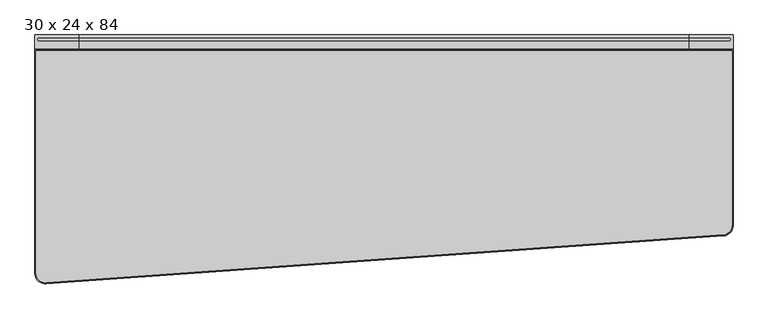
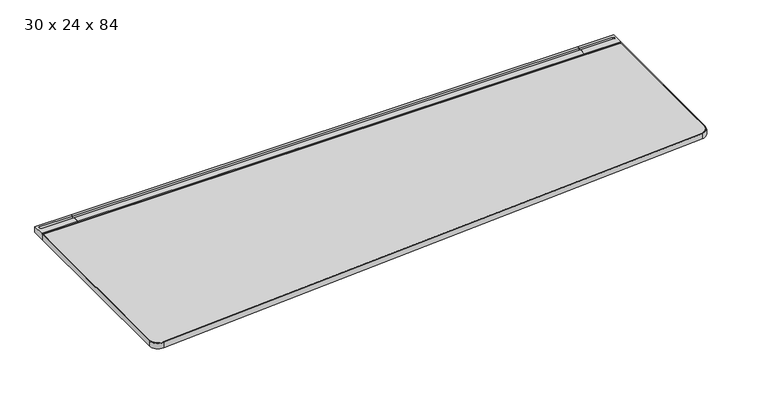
"""IFC4 building model written with IfcOpenShell, lengths in millimetres: furniture geometry, Steelcase - C Scape - Desking - Left Hand Tapered : 30 x 24 x 84."""

from ifc_helpers import new_model, si_unit, point, frame, frame_2d, origin, place, context, project, spatial, polyline, circle_curve, trimmed, segment, composite_curve, outline, extrude, faceted_brep, source, transform, mapped, element, save
from ifc_brep_helpers import plane_surface, cylinder_surface, revolved_surface, advanced_brep


def furniture_30_x_24_x_84_1e226a4b(model_context):
    return source(origin(), model_context, "Body", "SolidModel", [
        advanced_brep(
        [(134.6072876, -45.3135132, 703.3768), (134.6072876, -4.0331902, 703.3768), (134.6072876, -3.2278472, 705.1038636), (134.6072876, 0.0, 705.1038636), (134.6072876, 0.0, 725.932), (134.6072876, -8.5111084, 725.932), (134.6072876, -8.5111084, 713.486), (134.6072876, -19.3290527, 713.486), (134.6072876, -19.3290527, 725.932), (134.6072876, -42.7750923, 725.932), (134.6072876, -42.7750923, 722.4268341), (134.6072876, -45.3135132, 722.4268341), (1.5875, -45.3135132, 703.3768), (1.5875, -45.3135132, 722.4268341), (1.5875, -42.7750923, 722.4268341), (1.5875, -42.7750923, 725.932), (1.5875, 0.0, 725.932), (1.5875, 0.0, 705.1038636), (1.5875, -3.2278472, 705.1038636), (1.5875, -4.0331902, 703.3768), (13.3495728, -19.3290527, 725.932), (13.3495728, -8.5111084, 725.932), (13.3495728, -8.5111084, 713.486), (13.3495728, -19.3290527, 713.486)],
        [
            (0, 1),
            (1, 2),
            (2, 3),
            (3, 4),
            (4, 5),
            (5, 6),
            (6, 7),
            (7, 8),
            (8, 9),
            (9, 10),
            (10, 11),
            (11, 0),
            (12, 13),
            (13, 14),
            (14, 15),
            (15, 16),
            (16, 17),
            (17, 18),
            (18, 19),
            (19, 12),
            (0, 12),
            (19, 1),
            (18, 2),
            (17, 3),
            (16, 4),
            (15, 9),
            (8, 20),
            (20, 21, circle_curve(frame((13.3495728, -13.9200806, 725.932), z_axis=(0.0, 0.0, -1.0), x_axis=(1.0, 0.0, 0.0)), 5.4089722)),
            (21, 5),
            (14, 10),
            (13, 11),
            (6, 22),
            (22, 23, circle_curve(frame((13.3495728, -13.9200806, 713.486), z_axis=(0.0, 0.0, 1.0), x_axis=(1.0, 0.0, 0.0)), 5.4089722)),
            (23, 7),
            (21, 22),
            (20, 23),
        ],
        [
            plane_surface(frame((134.6072876, -45.3135132, 703.3768), z_axis=(1.0, 0.0, 0.0), x_axis=(0.0, 1.0, 0.0))),
            plane_surface(frame((1.5875, -45.3135132, 703.3768), z_axis=(-1.0, 0.0, 0.0), x_axis=(0.0, -1.0, 0.0))),
            plane_surface(frame((134.6072876, -45.3135132, 703.3768), z_axis=(0.0, 0.0, -1.0), x_axis=(-1.0, 0.0, 0.0))),
            plane_surface(frame((134.6072876, -4.0331902, 703.3768), z_axis=(0.0, 0.9063077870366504, -0.4226182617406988), x_axis=(-1.0, 0.0, 0.0))),
            plane_surface(frame((134.6072876, -3.2278472, 705.1038636), z_axis=(0.0, 0.0, -1.0), x_axis=(-1.0, 0.0, 0.0))),
            plane_surface(frame((134.6072876, 0.0, 705.1038636), z_axis=(0.0, 1.0, 0.0), x_axis=(-1.0, 0.0, 0.0))),
            plane_surface(frame((134.6072876, 0.0, 725.932), z_axis=(0.0, 0.0, 1.0), x_axis=(-1.0, 0.0, 0.0))),
            plane_surface(frame((134.6072876, -42.7750923, 725.932), z_axis=(0.0, -1.0, 0.0), x_axis=(-1.0, 0.0, 0.0))),
            plane_surface(frame((134.6072876, -42.7750923, 722.4268341), z_axis=(0.0, 0.0, 1.0), x_axis=(-1.0, 0.0, 0.0))),
            plane_surface(frame((134.6072876, -45.3135132, 722.4268341), z_axis=(0.0, -1.0, 0.0), x_axis=(-1.0, 0.0, 0.0))),
            plane_surface(frame((13.3495728, -8.5111084, 713.486), z_axis=(0.0, 0.0, 1.0), x_axis=(1.0, 0.0, 0.0))),
            plane_surface(frame((134.6072876, -8.5111084, 731.2180541), z_axis=(0.0, -1.0, 0.0), x_axis=(0.0, 0.0, -1.0))),
            revolved_surface(polyline([(18.758545, -13.9200806, 725.932), (18.758545, -13.9200806, 713.486)]), (13.3495728, -13.9200806, 713.486), (0.0, 0.0, 1.0)),
            plane_surface(frame((13.3495728, -19.3290527, 731.2180541), z_axis=(0.0, 1.0, 0.0), x_axis=(0.0, 0.0, -1.0))),
        ],
        [
            (0, [[1, 2, 3, 4, 5, 6, 7, 8, 9, 10, 11, 12]]),
            (1, [[13, 14, 15, 16, 17, 18, 19, 20]]),
            (2, [[-1, 21, -20, 22]]),
            (3, [[-2, -22, -19, 23]]),
            (4, [[-3, -23, -18, 24]]),
            (5, [[-4, -24, -17, 25]]),
            (6, [[-16, 26, -9, 27, 28, 29, -5, -25]]),
            (7, [[-10, -26, -15, 30]]),
            (8, [[-11, -30, -14, 31]]),
            (9, [[-12, -31, -13, -21]]),
            (10, [[32, 33, 34, -7]]),
            (11, [[-32, -6, -29, 35]]),
            (12, [[-33, -35, -28, 36]]),
            (13, [[-34, -36, -27, -8]]),
        ],
    ),
        faceted_brep([(20.6382632, -565.0752923, 700.7093833), (34.9133728, -565.0752923, 693.4200291), (116.3525879, -565.0752923, 693.4200291), (118.9731301, -565.0752923, 679.3263935), (134.6072876, -565.0752923, 679.3263935), (134.6072876, -565.0752923, 703.3768), (20.6382632, -565.0752923, 703.3768), (20.6382632, -4.0331902, 700.7093833), (20.6382632, -4.0331902, 703.3768), (134.6072876, -4.0331902, 703.3768), (134.6072876, -4.0331902, 629.3866), (128.2588347, -4.0331902, 629.3866), (116.3525879, -4.0331902, 693.4200291), (34.9133728, -4.0331902, 693.4200291), (128.2588347, -364.1172546, 629.3866), (121.1384051, -376.5599397, 667.6812472), (134.6072876, -364.1172546, 629.3866), (134.6072876, -376.5599397, 667.6812472)], [[[0, 1, 2, 3, 4, 5, 6]], [[7, 8, 9, 10, 11, 12, 13]], [[1, 0, 7, 13]], [[2, 1, 13, 12]], [[12, 11, 14, 15, 3, 2]], [[11, 10, 16, 14]], [[10, 9, 5, 4, 17, 16]], [[6, 5, 9, 8]], [[0, 6, 8, 7]], [[15, 17, 4, 3]], [[17, 15, 14, 16]]]),
        extrude(outline(composite_curve([segment(polyline([(-293.5216187, 657.3775839), (-559.0022133, 680.1371551)]), True, "CONTINUOUS"), segment(trimmed(circle_curve(frame_2d((-558.7581271, 682.9843154)), 2.8576039), [point((-559.0022133, 680.1371551))], [point((-561.5383043, 682.3236226))], False, "CARTESIAN"), True, "CONTINUOUS"), segment(polyline([(-561.5383043, 682.3236226), (-566.0887542, 701.4717905), (-557.8334441, 701.4717905), (-557.8334441, 703.3768), (-442.6683806, 703.3768), (-442.6683806, 696.3917953), (-318.2108611, 696.3917953), (-318.2108611, 703.3768), (-293.5216187, 703.3768), (-293.5216187, 657.3775839)]), True, "CONTINUOUS")], self_intersect=False)), frame((1030.224, 0.0, 0.0), z_axis=(1.0, 0.0, 0.0), x_axis=(0.0, 1.0, 0.0)), (0.0, 0.0, 1.0), 73.152),
        advanced_brep(
        [(1998.9927124, -45.3135132, 703.3768), (1998.9927124, -45.3135132, 722.4268341), (1998.9927124, -42.7750923, 722.4268341), (1998.9927124, -42.7750923, 725.932), (1998.9927124, -19.3290527, 725.932), (1998.9927124, -19.3290527, 713.486), (1998.9927124, -8.5111084, 713.486), (1998.9927124, -8.5111084, 725.932), (1998.9927124, 0.0, 725.932), (1998.9927124, 0.0, 705.1038636), (1998.9927124, -3.2278472, 705.1038636), (1998.9927124, -4.0331902, 703.3768), (2132.0125, -45.3135132, 703.3768), (2132.0125, -4.0331902, 703.3768), (2132.0125, -3.2278472, 705.1038636), (2132.0125, 0.0, 705.1038636), (2132.0125, 0.0, 725.932), (2132.0125, -42.7750923, 725.932), (2132.0125, -42.7750923, 722.4268341), (2132.0125, -45.3135132, 722.4268341), (2120.2504272, -8.5111084, 725.932), (2120.2504272, -19.3290527, 725.932), (2120.2504272, -19.3290527, 713.486), (2120.2504272, -8.5111084, 713.486)],
        [
            (0, 1),
            (1, 2),
            (2, 3),
            (3, 4),
            (4, 5),
            (5, 6),
            (6, 7),
            (7, 8),
            (8, 9),
            (9, 10),
            (10, 11),
            (11, 0),
            (12, 13),
            (13, 14),
            (14, 15),
            (15, 16),
            (16, 17),
            (17, 18),
            (18, 19),
            (19, 12),
            (11, 13),
            (12, 0),
            (10, 14),
            (9, 15),
            (8, 16),
            (7, 20),
            (20, 21, circle_curve(frame((2120.2504272, -13.9200806, 725.932), z_axis=(0.0, 0.0, -1.0), x_axis=(-1.0, 0.0, 0.0)), 5.4089722)),
            (21, 4),
            (3, 17),
            (2, 18),
            (1, 19),
            (5, 22),
            (22, 23, circle_curve(frame((2120.2504272, -13.9200806, 713.486), z_axis=(0.0, 0.0, 1.0), x_axis=(-1.0, 0.0, 0.0)), 5.4089722)),
            (23, 6),
            (23, 20),
            (22, 21),
        ],
        [
            plane_surface(frame((1998.9927124, -45.3135132, 703.3768), z_axis=(-1.0, 0.0, 0.0), x_axis=(0.0, 1.0, 0.0))),
            plane_surface(frame((2132.0125, -45.3135132, 703.3768), z_axis=(1.0, 0.0, 0.0), x_axis=(0.0, -1.0, 0.0))),
            plane_surface(frame((1998.9927124, -45.3135132, 703.3768), z_axis=(0.0, 0.0, -1.0), x_axis=(1.0, 0.0, 0.0))),
            plane_surface(frame((1998.9927124, -4.0331902, 703.3768), z_axis=(0.0, 0.9063077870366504, -0.4226182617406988), x_axis=(1.0, 0.0, 0.0))),
            plane_surface(frame((1998.9927124, -3.2278472, 705.1038636), z_axis=(0.0, 0.0, -1.0), x_axis=(1.0, 0.0, 0.0))),
            plane_surface(frame((1998.9927124, 0.0, 705.1038636), z_axis=(0.0, 1.0, 0.0), x_axis=(1.0, 0.0, 0.0))),
            plane_surface(frame((1998.9927124, 0.0, 725.932), z_axis=(0.0, 0.0, 1.0), x_axis=(1.0, 0.0, 0.0))),
            plane_surface(frame((1998.9927124, -42.7750923, 725.932), z_axis=(0.0, -1.0, 0.0), x_axis=(1.0, 0.0, 0.0))),
            plane_surface(frame((1998.9927124, -42.7750923, 722.4268341), z_axis=(0.0, 0.0, 1.0), x_axis=(1.0, 0.0, 0.0))),
            plane_surface(frame((1998.9927124, -45.3135132, 722.4268341), z_axis=(0.0, -1.0, 0.0), x_axis=(1.0, 0.0, 0.0))),
            plane_surface(frame((2120.2504272, -8.5111084, 713.486), z_axis=(0.0, 0.0, 1.0), x_axis=(-1.0, 0.0, 0.0))),
            plane_surface(frame((1998.9927124, -8.5111084, 731.2180541), z_axis=(0.0, -1.0, 0.0), x_axis=(0.0, 0.0, -1.0))),
            revolved_surface(polyline([(2114.841455, -13.9200806, 725.932), (2114.841455, -13.9200806, 713.486)]), (2120.2504272, -13.9200806, 713.486), (0.0, 0.0, 1.0)),
            plane_surface(frame((2120.2504272, -19.3290527, 731.2180541), z_axis=(0.0, 1.0, 0.0), x_axis=(0.0, 0.0, -1.0))),
        ],
        [
            (0, [[1, 2, 3, 4, 5, 6, 7, 8, 9, 10, 11, 12]]),
            (1, [[13, 14, 15, 16, 17, 18, 19, 20]]),
            (2, [[21, -13, 22, -12]]),
            (3, [[23, -14, -21, -11]]),
            (4, [[24, -15, -23, -10]]),
            (5, [[25, -16, -24, -9]]),
            (6, [[-25, -8, 26, 27, 28, -4, 29, -17]]),
            (7, [[30, -18, -29, -3]]),
            (8, [[31, -19, -30, -2]]),
            (9, [[-22, -20, -31, -1]]),
            (10, [[-6, 32, 33, 34]]),
            (11, [[35, -26, -7, -34]]),
            (12, [[36, -27, -35, -33]]),
            (13, [[-5, -28, -36, -32]]),
        ],
    ),
        faceted_brep([(2112.9617368, -565.0752923, 700.7093833), (2112.9617368, -565.0752923, 703.3768), (1998.9927124, -565.0752923, 703.3768), (1998.9927124, -565.0752923, 679.3263935), (2014.6268699, -565.0752923, 679.3263935), (2017.2474121, -565.0752923, 693.4200291), (2098.6866272, -565.0752923, 693.4200291), (2112.9617368, -4.0331902, 700.7093833), (2098.6866272, -4.0331902, 693.4200291), (2017.2474121, -4.0331902, 693.4200291), (2005.3411653, -4.0331902, 629.3866), (1998.9927124, -4.0331902, 629.3866), (1998.9927124, -4.0331902, 703.3768), (2112.9617368, -4.0331902, 703.3768), (2012.4615949, -376.5599397, 667.6812472), (2005.3411653, -364.1172546, 629.3866), (1998.9927124, -364.1172546, 629.3866), (1998.9927124, -376.5599397, 667.6812472)], [[[0, 1, 2, 3, 4, 5, 6]], [[7, 8, 9, 10, 11, 12, 13]], [[6, 8, 7, 0]], [[5, 9, 8, 6]], [[9, 5, 4, 14, 15, 10]], [[10, 15, 16, 11]], [[11, 16, 17, 3, 2, 12]], [[1, 13, 12, 2]], [[0, 7, 13, 1]], [[14, 4, 3, 17]], [[17, 16, 15, 14]]]),
        extrude(outline(polyline([(-8.5111084, 725.932), (0.0, 725.932), (0.0, 705.1038636), (-3.2278472, 705.1038636), (-4.0331902, 703.3768), (-45.3135132, 703.3768), (-45.3135132, 722.4268341), (-42.7750923, 722.4268341), (-42.7750923, 725.932), (-19.3290527, 725.932), (-19.3290527, 713.486), (-8.5111084, 713.486), (-8.5111084, 725.932)])), frame((134.6072876, 0.0, 0.0), z_axis=(1.0, 0.0, 0.0), x_axis=(0.0, 1.0, 0.0)), (0.0, 0.0, 1.0), 1864.3854248),
        extrude(outline(polyline([(1998.9927124, -4.0331902), (1998.9927124, -293.5216187), (134.6072876, -293.5216187), (134.6072876, -4.0331902), (1998.9927124, -4.0331902)])), frame((0.0, 0.0, 629.3866), z_axis=(0.0, 0.0, 1.0), x_axis=(1.0, 0.0, 0.0)), (0.0, 0.0, 1.0), 73.9902),
        extrude(outline(composite_curve([segment(polyline([(2128.9645, -48.3660689), (2128.9645, -581.0845942)]), True, "CONTINUOUS"), segment(trimmed(circle_curve(frame_2d((2099.659299, -581.0845942)), 29.305201), [point((2128.9645, -581.0845942))], [point((2102.5931119, -610.2425699))], False, "CARTESIAN"), True, "CONTINUOUS"), segment(polyline([(2102.5931119, -610.2425699), (36.8381677, -756.7577516)]), True, "CONTINUOUS"), segment(trimmed(circle_curve(frame_2d((33.9076624, -727.6326485)), 29.2721624), [point((36.8381677, -756.7577516))], [point((4.6355, -727.6326485))], False, "CARTESIAN"), True, "CONTINUOUS"), segment(polyline([(4.6355, -727.6326485), (4.6355, -48.3660689), (2128.9645, -48.3660689)]), True, "CONTINUOUS")], self_intersect=False)), frame((0.0, 0.0, 703.3768), z_axis=(0.0, 0.0, 1.0), x_axis=(1.0, 0.0, 0.0)), (0.0, 0.0, 1.0), 20.5232),
        advanced_brep(
        [(4.6384766, -48.3660689, 703.3768), (4.6384766, -48.3660689, 723.9), (4.6384766, -727.9545671, 723.9), (4.6384766, -727.9545671, 703.3768), (1.5875, -45.3150923, 723.9), (1.5875, -45.3150923, 703.3768), (1.5875, -727.9545671, 703.3768), (1.5875, -727.9545671, 723.9), (36.1990786, -756.5105703, 703.3768), (36.1990786, -756.5105703, 723.9), (36.5032914, -759.5463424, 723.9), (36.5032914, -759.5463424, 703.3768), (2103.2132622, -610.4653551, 723.9), (2103.2132622, -610.4653551, 703.3768), (2103.4282914, -613.5087448, 703.3768), (2103.4282914, -613.5087448, 723.9), (2128.9615234, -581.9169695, 703.3768), (2128.9615234, -581.9169695, 723.9), (2132.0125, -581.9169695, 703.3768), (2132.0125, -45.3150923, 703.3768), (2128.9615234, -48.3660689, 703.3768), (2132.0125, -581.9169695, 723.9), (2132.0125, -45.3150923, 723.9), (2128.9615234, -48.3660689, 723.9)],
        [
            (0, 1),
            (1, 2),
            (2, 3),
            (3, 0),
            (4, 5),
            (5, 6),
            (6, 7),
            (7, 4),
            (8, 3, circle_curve(frame((33.3375, -727.9545671, 703.3768), z_axis=(0.0, 0.0, -1.0), x_axis=(-1.0, 0.0, 0.0)), 28.6990234)),
            (2, 9, circle_curve(frame((33.3375, -727.9545671, 723.9), z_axis=(0.0, 0.0, 1.0), x_axis=(-1.0, 0.0, 0.0)), 28.6990234)),
            (9, 8),
            (10, 7, circle_curve(frame((33.3375, -727.9545671, 723.9), z_axis=(0.0, 0.0, -1.0), x_axis=(-1.0, 0.0, 0.0)), 31.75)),
            (6, 11, circle_curve(frame((33.3375, -727.9545671, 703.3768), z_axis=(0.0, 0.0, 1.0), x_axis=(-1.0, 0.0, 0.0)), 31.75)),
            (11, 10),
            (9, 12),
            (12, 13),
            (13, 8),
            (11, 14),
            (14, 15),
            (15, 10),
            (16, 13, circle_curve(frame((2100.2625, -581.9169695, 703.3768), z_axis=(0.0, 0.0, -1.0), x_axis=(0.09970996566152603, -0.9950165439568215, 0.0)), 28.6990234)),
            (12, 17, circle_curve(frame((2100.2625, -581.9169695, 723.9), z_axis=(0.0, 0.0, 1.0), x_axis=(0.09970996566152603, -0.9950165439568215, 0.0)), 28.6990234)),
            (17, 16),
            (18, 14, circle_curve(frame((2100.2625, -581.9169695, 703.3768), z_axis=(0.0, 0.0, -1.0), x_axis=(0.09970996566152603, -0.9950165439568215, 0.0)), 31.75)),
            (5, 19),
            (19, 18),
            (16, 20),
            (20, 0),
            (21, 15, circle_curve(frame((2100.2625, -581.9169695, 723.9), z_axis=(0.0, 0.0, -1.0), x_axis=(0.09970996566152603, -0.9950165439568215, 0.0)), 31.75)),
            (18, 21),
            (21, 22),
            (22, 4),
            (1, 23),
            (23, 17),
            (23, 20),
            (19, 22),
        ],
        [
            plane_surface(frame((4.6384766, -48.3660689, 723.9), z_axis=(1.0, 0.0, 0.0), x_axis=(0.0, -1.0, 0.0))),
            plane_surface(frame((1.5875, -45.3150923, 703.3768), z_axis=(-1.0, 0.0, 0.0), x_axis=(0.0, -1.0, 0.0))),
            revolved_surface(polyline([(4.638476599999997, -727.9545671, 723.9), (4.638476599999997, -727.9545671, 703.3768)]), (33.3375, -727.9545671, 0.0), (0.0, 0.0, 1.0)),
            cylinder_surface(frame((33.3375, -727.9545671, 0.0), z_axis=(0.0, 0.0, 1.0), x_axis=(-1.0, 0.0, 0.0)), 31.75),
            plane_surface(frame((36.1989477, -756.5092633, 723.9), z_axis=(-0.07047882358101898, 0.997513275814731, 0.0), x_axis=(0.997513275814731, 0.07047882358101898, 0.0))),
            plane_surface(frame((36.5032914, -759.5463424, 703.3768), z_axis=(0.07047882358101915, -0.997513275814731, 0.0), x_axis=(0.997513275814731, 0.07047882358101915, 0.0))),
            revolved_surface(polyline([(2103.124078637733, -610.472972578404, 723.9), (2103.124078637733, -610.472972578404, 703.3768)]), (2100.2625, -581.9169695, 0.0), (0.0, 0.0, 1.0)),
            plane_surface(frame((2100.2625, -581.9169695, 703.3768), z_axis=(0.0, 0.0, -1.0), x_axis=(0.09970996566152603, -0.9950165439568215, 0.0))),
            cylinder_surface(frame((2100.2625, -581.9169695, 0.0), z_axis=(0.0, 0.0, 1.0), x_axis=(0.09970996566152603, -0.9950165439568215, 0.0)), 31.75),
            plane_surface(frame((2100.2625, -581.9169695, 723.9), z_axis=(0.0, 0.0, 1.0), x_axis=(0.09970996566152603, -0.9950165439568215, 0.0))),
            plane_surface(frame((2128.9615234, -581.9169695, 723.9), z_axis=(-1.0, 0.0, 0.0), x_axis=(0.0, 1.0, 0.0))),
            plane_surface(frame((2132.0125, -581.9169695, 703.3768), z_axis=(1.0, 0.0, 0.0), x_axis=(0.0, 1.0, 0.0))),
            plane_surface(frame((2128.9615234, -48.3660689, 723.9), z_axis=(0.0, -1.0, 0.0), x_axis=(-1.0, 0.0, 0.0))),
            plane_surface(frame((2132.0125, -45.3150923, 703.3768), z_axis=(0.0, 1.0, 0.0), x_axis=(-1.0, 0.0, 0.0))),
        ],
        [
            (0, [[1, 2, 3, 4]]),
            (1, [[5, 6, 7, 8]]),
            (2, [[9, -3, 10, 11]]),
            (3, [[12, -7, 13, 14]]),
            (4, [[-11, 15, 16, 17]]),
            (5, [[-14, 18, 19, 20]]),
            (6, [[21, -16, 22, 23]]),
            (7, [[24, -18, -13, -6, 25, 26], [-9, -17, -21, 27, 28, -4]]),
            (8, [[29, -19, -24, 30]]),
            (9, [[-12, -20, -29, 31, 32, -8], [-22, -15, -10, -2, 33, 34]]),
            (10, [[-23, -34, 35, -27]]),
            (11, [[-30, -26, 36, -31]]),
            (12, [[-35, -33, -1, -28]]),
            (13, [[-36, -25, -5, -32]]),
        ],
    ),
    ])


if __name__ == "__main__":
    model = new_model("IFC4")
    model_context = context("Model", 3, world=origin())
    ifc_project = project(units=[si_unit("LENGTHUNIT", "METRE", prefix="MILLI")], contexts=[model_context])
    site = spatial("IfcSite", under=ifc_project)
    building = spatial("IfcBuilding", under=site)
    placement = place(None, origin())
    furniture_30_x_24_x_84_shape = furniture_30_x_24_x_84_1e226a4b(model_context)
    element("IfcFurniture", 1, ObjectType="Steelcase - C Scape - Desking - Left Hand Tapered : 30 x 24 x 84", at=placement, inside=building, context=model_context, shape_type="MappedRepresentation", body=[
        mapped(furniture_30_x_24_x_84_shape, transform((0.0, 0.0, 0.0), x_axis=(1.0, 0.0, 0.0), y_axis=(0.0, 1.0, 0.0), z_axis=(0.0, 0.0, 1.0))),
    ])
    save(model, "model.ifc")
